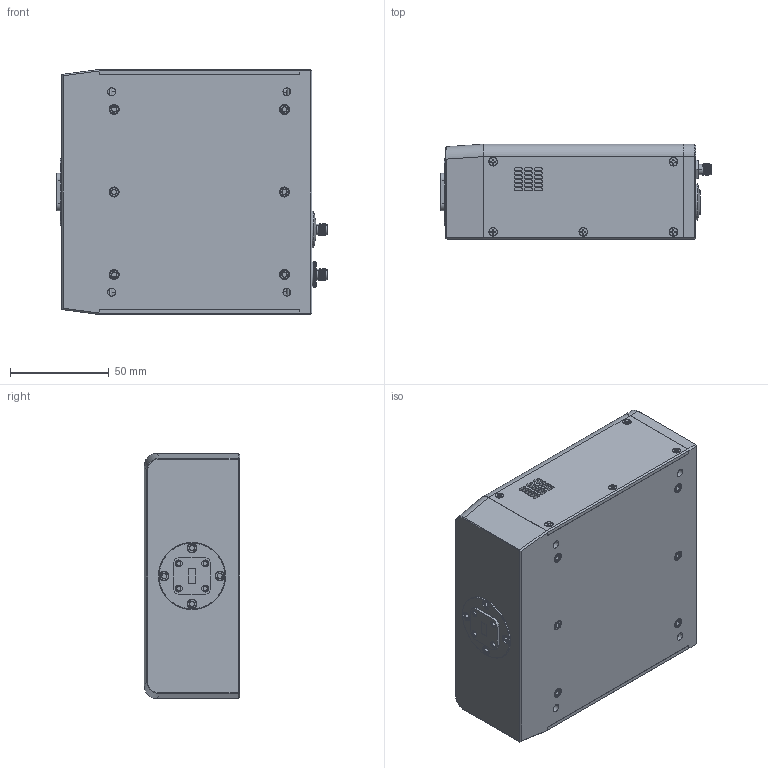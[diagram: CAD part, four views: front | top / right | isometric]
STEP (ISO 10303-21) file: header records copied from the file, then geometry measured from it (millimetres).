
FILE_DESCRIPTION (( 'STEP AP214' ), '1' );
FILE_NAME ('TC-A-2, Defeatured, Mountable.STEP', '2024-05-15T22:57:05', ( '' ), ( '' ), 'SwSTEP 2.0', 'SolidWorks 2021', '' );
FILE_SCHEMA (( 'AUTOMOTIVE_DESIGN' ));
Length unit declared in the file: inch
Products named in the file (1): TC-A-2, Defeatured, Mountable
Bounding box: 136.91 x 48.26 x 124.32 mm (x, y, z)
Volume: 752362.1 mm3; surface area: 102842.9 mm2
Topology: 1 solids, 3 shells, 1399 faces, 3756 edges, 2436 vertices
Faces by surface type: plane 713, cylinder 445, cone 226, bspline 12, torus 2, sphere 1
Entity records: 67709 total; most frequent: CARTESIAN_POINT 16059, ORIENTED_EDGE 7500, DIRECTION 6912, EDGE_CURVE 3750, AXIS2_PLACEMENT_3D 2444, VERTEX_POINT 2435, VECTOR 2024, LINE 2024
